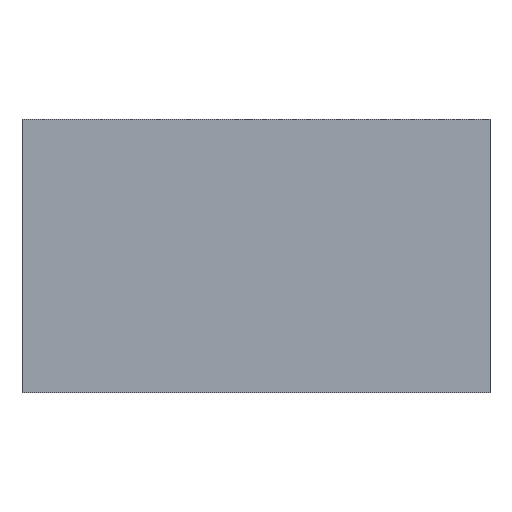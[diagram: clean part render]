
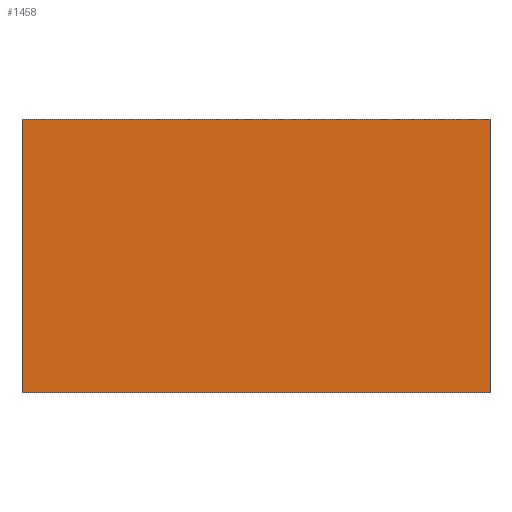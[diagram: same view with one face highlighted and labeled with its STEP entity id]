
A CAD part, front view. The second image highlights one B-rep face of the part: STEP entity #1458.
In plain terms, the highlighted planar face has unit normal (0, -1, 0).
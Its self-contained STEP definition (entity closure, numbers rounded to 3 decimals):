
#265=DIRECTION('',(1.,0.,0.));
#266=VECTOR('',#265,60.);
#267=CARTESIAN_POINT('',(-30.,-16.5,17.5));
#268=LINE('',#267,#266);
#337=DIRECTION('',(1.,0.,0.));
#338=VECTOR('',#337,60.);
#339=CARTESIAN_POINT('',(-30.,-16.5,-17.5));
#340=LINE('',#339,#338);
#377=DIRECTION('',(0.,0.,1.));
#378=VECTOR('',#377,35.);
#379=CARTESIAN_POINT('',(-30.,-16.5,-17.5));
#380=LINE('',#379,#378);
#381=DIRECTION('',(0.,0.,1.));
#382=VECTOR('',#381,35.);
#383=CARTESIAN_POINT('',(30.,-16.5,-17.5));
#384=LINE('',#383,#382);
#780=CARTESIAN_POINT('',(-30.,-16.5,-17.5));
#782=VERTEX_POINT('',#780);
#783=CARTESIAN_POINT('',(30.,-16.5,-17.5));
#784=VERTEX_POINT('',#783);
#792=CARTESIAN_POINT('',(-30.,-16.5,17.5));
#794=VERTEX_POINT('',#792);
#795=CARTESIAN_POINT('',(30.,-16.5,17.5));
#796=VERTEX_POINT('',#795);
#1446=CARTESIAN_POINT('',(-30.,-16.5,-17.5));
#1447=DIRECTION('',(0.,-1.,0.));
#1448=DIRECTION('',(1.,0.,0.));
#1449=AXIS2_PLACEMENT_3D('',#1446,#1447,#1448);
#1450=PLANE('',#1449);
#1451=ORIENTED_EDGE('',*,*,#1389,.F.);
#1452=ORIENTED_EDGE('',*,*,#1441,.T.);
#1453=ORIENTED_EDGE('',*,*,#1335,.T.);
#1455=ORIENTED_EDGE('',*,*,#1454,.F.);
#1456=EDGE_LOOP('',(#1451,#1452,#1453,#1455));
#1457=FACE_OUTER_BOUND('',#1456,.F.);
#1458=ADVANCED_FACE('',(#1457),#1450,.T.);
#1335=EDGE_CURVE('',#794,#796,#268,.T.);
#1389=EDGE_CURVE('',#782,#784,#340,.T.);
#1441=EDGE_CURVE('',#782,#794,#380,.T.);
#1454=EDGE_CURVE('',#784,#796,#384,.T.);
